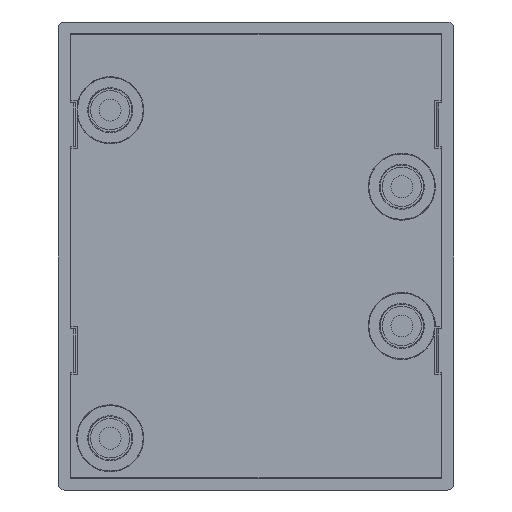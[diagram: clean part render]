
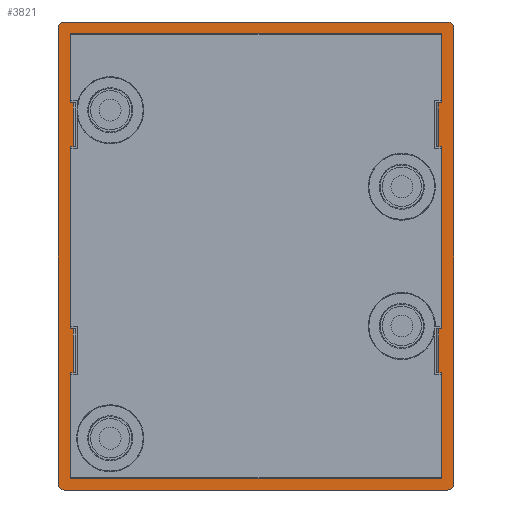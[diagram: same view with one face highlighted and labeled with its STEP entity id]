
A CAD part, front view. The second image highlights one B-rep face of the part: STEP entity #3821.
In plain terms, the highlighted planar face has unit normal (0, -1, 0).
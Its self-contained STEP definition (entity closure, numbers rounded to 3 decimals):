
#3602 = VERTEX_POINT('',#3603);
#3603 = CARTESIAN_POINT('',(13.55,0.,15.65));
#3609 = EDGE_CURVE('',#3602,#3610,#3612,.T.);
#3610 = VERTEX_POINT('',#3611);
#3611 = CARTESIAN_POINT('',(13.55,0.,-15.65));
#3612 = LINE('',#3613,#3614);
#3613 = CARTESIAN_POINT('',(13.55,0.,-16.05));
#3614 = VECTOR('',#3615,1.);
#3615 = DIRECTION('',(0.,-0.,-1.));
#3642 = VERTEX_POINT('',#3643);
#3643 = CARTESIAN_POINT('',(13.15,0.,-16.05));
#3649 = EDGE_CURVE('',#3642,#3650,#3652,.T.);
#3650 = VERTEX_POINT('',#3651);
#3651 = CARTESIAN_POINT('',(-13.15,0.,-16.05));
#3652 = LINE('',#3653,#3654);
#3653 = CARTESIAN_POINT('',(-13.55,0.,-16.05));
#3654 = VECTOR('',#3655,1.);
#3655 = DIRECTION('',(-1.,-0.,-0.));
#3671 = EDGE_CURVE('',#3672,#3674,#3676,.T.);
#3672 = VERTEX_POINT('',#3673);
#3673 = CARTESIAN_POINT('',(-13.55,0.,-15.65));
#3674 = VERTEX_POINT('',#3675);
#3675 = CARTESIAN_POINT('',(-13.55,0.,15.65));
#3676 = LINE('',#3677,#3678);
#3677 = CARTESIAN_POINT('',(-13.55,0.,-16.05));
#3678 = VECTOR('',#3679,1.);
#3679 = DIRECTION('',(0.,0.,1.));
#3722 = VERTEX_POINT('',#3723);
#3723 = CARTESIAN_POINT('',(-13.15,0.,16.05));
#3729 = EDGE_CURVE('',#3722,#3730,#3732,.T.);
#3730 = VERTEX_POINT('',#3731);
#3731 = CARTESIAN_POINT('',(13.15,0.,16.05));
#3732 = LINE('',#3733,#3734);
#3733 = CARTESIAN_POINT('',(-13.55,0.,16.05));
#3734 = VECTOR('',#3735,1.);
#3735 = DIRECTION('',(1.,0.,0.));
#3821 = ADVANCED_FACE('',(#3822,#3984),#4018,.F.);
#3822 = FACE_BOUND('',#3823,.T.);
#3823 = EDGE_LOOP('',(#3824,#3834,#3842,#3850,#3858,#3866,#3874,#3882,
    #3890,#3898,#3906,#3914,#3922,#3930,#3938,#3946,#3954,#3962,#3970,
    #3978));
#3824 = ORIENTED_EDGE('',*,*,#3825,.T.);
#3825 = EDGE_CURVE('',#3826,#3828,#3830,.T.);
#3826 = VERTEX_POINT('',#3827);
#3827 = CARTESIAN_POINT('',(12.75,0.,10.5));
#3828 = VERTEX_POINT('',#3829);
#3829 = CARTESIAN_POINT('',(12.55,0.,10.5));
#3830 = LINE('',#3831,#3832);
#3831 = CARTESIAN_POINT('',(12.75,0.,10.5));
#3832 = VECTOR('',#3833,1.);
#3833 = DIRECTION('',(-1.,0.,0.));
#3834 = ORIENTED_EDGE('',*,*,#3835,.T.);
#3835 = EDGE_CURVE('',#3828,#3836,#3838,.T.);
#3836 = VERTEX_POINT('',#3837);
#3837 = CARTESIAN_POINT('',(12.55,0.,7.5));
#3838 = LINE('',#3839,#3840);
#3839 = CARTESIAN_POINT('',(12.55,0.,7.5));
#3840 = VECTOR('',#3841,1.);
#3841 = DIRECTION('',(0.,0.,-1.));
#3842 = ORIENTED_EDGE('',*,*,#3843,.T.);
#3843 = EDGE_CURVE('',#3836,#3844,#3846,.T.);
#3844 = VERTEX_POINT('',#3845);
#3845 = CARTESIAN_POINT('',(12.75,0.,7.5));
#3846 = LINE('',#3847,#3848);
#3847 = CARTESIAN_POINT('',(12.75,0.,7.5));
#3848 = VECTOR('',#3849,1.);
#3849 = DIRECTION('',(1.,0.,0.));
#3850 = ORIENTED_EDGE('',*,*,#3851,.T.);
#3851 = EDGE_CURVE('',#3844,#3852,#3854,.T.);
#3852 = VERTEX_POINT('',#3853);
#3853 = CARTESIAN_POINT('',(12.75,0.,-5.));
#3854 = LINE('',#3855,#3856);
#3855 = CARTESIAN_POINT('',(12.75,0.,-16.05));
#3856 = VECTOR('',#3857,1.);
#3857 = DIRECTION('',(0.,0.,-1.));
#3858 = ORIENTED_EDGE('',*,*,#3859,.T.);
#3859 = EDGE_CURVE('',#3852,#3860,#3862,.T.);
#3860 = VERTEX_POINT('',#3861);
#3861 = CARTESIAN_POINT('',(12.55,0.,-5.));
#3862 = LINE('',#3863,#3864);
#3863 = CARTESIAN_POINT('',(12.75,0.,-5.));
#3864 = VECTOR('',#3865,1.);
#3865 = DIRECTION('',(-1.,0.,0.));
#3866 = ORIENTED_EDGE('',*,*,#3867,.T.);
#3867 = EDGE_CURVE('',#3860,#3868,#3870,.T.);
#3868 = VERTEX_POINT('',#3869);
#3869 = CARTESIAN_POINT('',(12.55,0.,-8.));
#3870 = LINE('',#3871,#3872);
#3871 = CARTESIAN_POINT('',(12.55,0.,-8.));
#3872 = VECTOR('',#3873,1.);
#3873 = DIRECTION('',(0.,0.,-1.));
#3874 = ORIENTED_EDGE('',*,*,#3875,.T.);
#3875 = EDGE_CURVE('',#3868,#3876,#3878,.T.);
#3876 = VERTEX_POINT('',#3877);
#3877 = CARTESIAN_POINT('',(12.75,0.,-8.));
#3878 = LINE('',#3879,#3880);
#3879 = CARTESIAN_POINT('',(12.75,0.,-8.));
#3880 = VECTOR('',#3881,1.);
#3881 = DIRECTION('',(1.,0.,0.));
#3882 = ORIENTED_EDGE('',*,*,#3883,.T.);
#3883 = EDGE_CURVE('',#3876,#3884,#3886,.T.);
#3884 = VERTEX_POINT('',#3885);
#3885 = CARTESIAN_POINT('',(12.75,0.,-15.25));
#3886 = LINE('',#3887,#3888);
#3887 = CARTESIAN_POINT('',(12.75,0.,-16.05));
#3888 = VECTOR('',#3889,1.);
#3889 = DIRECTION('',(0.,0.,-1.));
#3890 = ORIENTED_EDGE('',*,*,#3891,.T.);
#3891 = EDGE_CURVE('',#3884,#3892,#3894,.T.);
#3892 = VERTEX_POINT('',#3893);
#3893 = CARTESIAN_POINT('',(-12.75,0.,-15.25));
#3894 = LINE('',#3895,#3896);
#3895 = CARTESIAN_POINT('',(-13.55,0.,-15.25));
#3896 = VECTOR('',#3897,1.);
#3897 = DIRECTION('',(-1.,0.,0.));
#3898 = ORIENTED_EDGE('',*,*,#3899,.T.);
#3899 = EDGE_CURVE('',#3892,#3900,#3902,.T.);
#3900 = VERTEX_POINT('',#3901);
#3901 = CARTESIAN_POINT('',(-12.75,0.,-8.));
#3902 = LINE('',#3903,#3904);
#3903 = CARTESIAN_POINT('',(-12.75,0.,-16.05));
#3904 = VECTOR('',#3905,1.);
#3905 = DIRECTION('',(0.,0.,1.));
#3906 = ORIENTED_EDGE('',*,*,#3907,.T.);
#3907 = EDGE_CURVE('',#3900,#3908,#3910,.T.);
#3908 = VERTEX_POINT('',#3909);
#3909 = CARTESIAN_POINT('',(-12.55,0.,-8.));
#3910 = LINE('',#3911,#3912);
#3911 = CARTESIAN_POINT('',(-12.75,0.,-8.));
#3912 = VECTOR('',#3913,1.);
#3913 = DIRECTION('',(1.,0.,0.));
#3914 = ORIENTED_EDGE('',*,*,#3915,.T.);
#3915 = EDGE_CURVE('',#3908,#3916,#3918,.T.);
#3916 = VERTEX_POINT('',#3917);
#3917 = CARTESIAN_POINT('',(-12.55,0.,-5.));
#3918 = LINE('',#3919,#3920);
#3919 = CARTESIAN_POINT('',(-12.55,0.,-5.));
#3920 = VECTOR('',#3921,1.);
#3921 = DIRECTION('',(0.,0.,1.));
#3922 = ORIENTED_EDGE('',*,*,#3923,.T.);
#3923 = EDGE_CURVE('',#3916,#3924,#3926,.T.);
#3924 = VERTEX_POINT('',#3925);
#3925 = CARTESIAN_POINT('',(-12.75,0.,-5.));
#3926 = LINE('',#3927,#3928);
#3927 = CARTESIAN_POINT('',(-12.75,0.,-5.));
#3928 = VECTOR('',#3929,1.);
#3929 = DIRECTION('',(-1.,-0.,-0.));
#3930 = ORIENTED_EDGE('',*,*,#3931,.T.);
#3931 = EDGE_CURVE('',#3924,#3932,#3934,.T.);
#3932 = VERTEX_POINT('',#3933);
#3933 = CARTESIAN_POINT('',(-12.75,0.,7.5));
#3934 = LINE('',#3935,#3936);
#3935 = CARTESIAN_POINT('',(-12.75,0.,-16.05));
#3936 = VECTOR('',#3937,1.);
#3937 = DIRECTION('',(0.,0.,1.));
#3938 = ORIENTED_EDGE('',*,*,#3939,.T.);
#3939 = EDGE_CURVE('',#3932,#3940,#3942,.T.);
#3940 = VERTEX_POINT('',#3941);
#3941 = CARTESIAN_POINT('',(-12.55,0.,7.5));
#3942 = LINE('',#3943,#3944);
#3943 = CARTESIAN_POINT('',(-12.75,0.,7.5));
#3944 = VECTOR('',#3945,1.);
#3945 = DIRECTION('',(1.,0.,0.));
#3946 = ORIENTED_EDGE('',*,*,#3947,.T.);
#3947 = EDGE_CURVE('',#3940,#3948,#3950,.T.);
#3948 = VERTEX_POINT('',#3949);
#3949 = CARTESIAN_POINT('',(-12.55,0.,10.5));
#3950 = LINE('',#3951,#3952);
#3951 = CARTESIAN_POINT('',(-12.55,0.,10.5));
#3952 = VECTOR('',#3953,1.);
#3953 = DIRECTION('',(0.,0.,1.));
#3954 = ORIENTED_EDGE('',*,*,#3955,.T.);
#3955 = EDGE_CURVE('',#3948,#3956,#3958,.T.);
#3956 = VERTEX_POINT('',#3957);
#3957 = CARTESIAN_POINT('',(-12.75,0.,10.5));
#3958 = LINE('',#3959,#3960);
#3959 = CARTESIAN_POINT('',(-12.75,0.,10.5));
#3960 = VECTOR('',#3961,1.);
#3961 = DIRECTION('',(-1.,-0.,-0.));
#3962 = ORIENTED_EDGE('',*,*,#3963,.T.);
#3963 = EDGE_CURVE('',#3956,#3964,#3966,.T.);
#3964 = VERTEX_POINT('',#3965);
#3965 = CARTESIAN_POINT('',(-12.75,0.,15.25));
#3966 = LINE('',#3967,#3968);
#3967 = CARTESIAN_POINT('',(-12.75,0.,-16.05));
#3968 = VECTOR('',#3969,1.);
#3969 = DIRECTION('',(0.,0.,1.));
#3970 = ORIENTED_EDGE('',*,*,#3971,.T.);
#3971 = EDGE_CURVE('',#3964,#3972,#3974,.T.);
#3972 = VERTEX_POINT('',#3973);
#3973 = CARTESIAN_POINT('',(12.75,0.,15.25));
#3974 = LINE('',#3975,#3976);
#3975 = CARTESIAN_POINT('',(-13.55,0.,15.25));
#3976 = VECTOR('',#3977,1.);
#3977 = DIRECTION('',(1.,0.,0.));
#3978 = ORIENTED_EDGE('',*,*,#3979,.T.);
#3979 = EDGE_CURVE('',#3972,#3826,#3980,.T.);
#3980 = LINE('',#3981,#3982);
#3981 = CARTESIAN_POINT('',(12.75,0.,-16.05));
#3982 = VECTOR('',#3983,1.);
#3983 = DIRECTION('',(0.,0.,-1.));
#3984 = FACE_BOUND('',#3985,.T.);
#3985 = EDGE_LOOP('',(#3986,#3987,#3994,#3995,#4002,#4003,#4010,#4011));
#3986 = ORIENTED_EDGE('',*,*,#3729,.F.);
#3987 = ORIENTED_EDGE('',*,*,#3988,.T.);
#3988 = EDGE_CURVE('',#3722,#3674,#3989,.T.);
#3989 = ( BOUNDED_CURVE() B_SPLINE_CURVE(3,(#3990,#3991,#3992,#3993),
.UNSPECIFIED.,.F.,.F.) B_SPLINE_CURVE_WITH_KNOTS((4,4),(5.498,
7.068),.PIECEWISE_BEZIER_KNOTS.) CURVE() 
GEOMETRIC_REPRESENTATION_ITEM() RATIONAL_B_SPLINE_CURVE((1.,
0.805,0.805,1.)) REPRESENTATION_ITEM('') );
#3990 = CARTESIAN_POINT('',(-13.15,0.,16.05));
#3991 = CARTESIAN_POINT('',(-13.384,0.,16.05));
#3992 = CARTESIAN_POINT('',(-13.55,0.,15.884));
#3993 = CARTESIAN_POINT('',(-13.55,0.,15.65));
#3994 = ORIENTED_EDGE('',*,*,#3671,.F.);
#3995 = ORIENTED_EDGE('',*,*,#3996,.T.);
#3996 = EDGE_CURVE('',#3672,#3650,#3997,.T.);
#3997 = ( BOUNDED_CURVE() B_SPLINE_CURVE(3,(#3998,#3999,#4000,#4001),
.UNSPECIFIED.,.F.,.F.) B_SPLINE_CURVE_WITH_KNOTS((4,4),(5.498,
7.068),.PIECEWISE_BEZIER_KNOTS.) CURVE() 
GEOMETRIC_REPRESENTATION_ITEM() RATIONAL_B_SPLINE_CURVE((1.,
0.805,0.805,1.)) REPRESENTATION_ITEM('') );
#3998 = CARTESIAN_POINT('',(-13.55,0.,-15.65));
#3999 = CARTESIAN_POINT('',(-13.55,0.,-15.884));
#4000 = CARTESIAN_POINT('',(-13.384,0.,-16.05));
#4001 = CARTESIAN_POINT('',(-13.15,0.,-16.05));
#4002 = ORIENTED_EDGE('',*,*,#3649,.F.);
#4003 = ORIENTED_EDGE('',*,*,#4004,.T.);
#4004 = EDGE_CURVE('',#3642,#3610,#4005,.T.);
#4005 = ( BOUNDED_CURVE() B_SPLINE_CURVE(3,(#4006,#4007,#4008,#4009),
.UNSPECIFIED.,.F.,.F.) B_SPLINE_CURVE_WITH_KNOTS((4,4),(5.498,
7.068),.PIECEWISE_BEZIER_KNOTS.) CURVE() 
GEOMETRIC_REPRESENTATION_ITEM() RATIONAL_B_SPLINE_CURVE((1.,
0.805,0.805,1.)) REPRESENTATION_ITEM('') );
#4006 = CARTESIAN_POINT('',(13.15,0.,-16.05));
#4007 = CARTESIAN_POINT('',(13.384,0.,-16.05));
#4008 = CARTESIAN_POINT('',(13.55,0.,-15.884));
#4009 = CARTESIAN_POINT('',(13.55,0.,-15.65));
#4010 = ORIENTED_EDGE('',*,*,#3609,.F.);
#4011 = ORIENTED_EDGE('',*,*,#4012,.T.);
#4012 = EDGE_CURVE('',#3602,#3730,#4013,.T.);
#4013 = ( BOUNDED_CURVE() B_SPLINE_CURVE(3,(#4014,#4015,#4016,#4017),
.UNSPECIFIED.,.F.,.F.) B_SPLINE_CURVE_WITH_KNOTS((4,4),(5.498,
7.068),.PIECEWISE_BEZIER_KNOTS.) CURVE() 
GEOMETRIC_REPRESENTATION_ITEM() RATIONAL_B_SPLINE_CURVE((1.,
0.805,0.805,1.)) REPRESENTATION_ITEM('') );
#4014 = CARTESIAN_POINT('',(13.55,0.,15.65));
#4015 = CARTESIAN_POINT('',(13.55,0.,15.884));
#4016 = CARTESIAN_POINT('',(13.384,0.,16.05));
#4017 = CARTESIAN_POINT('',(13.15,0.,16.05));
#4018 = PLANE('',#4019);
#4019 = AXIS2_PLACEMENT_3D('',#4020,#4021,#4022);
#4020 = CARTESIAN_POINT('',(0.,0.,0.));
#4021 = DIRECTION('',(0.,1.,0.));
#4022 = DIRECTION('',(0.,0.,1.));
